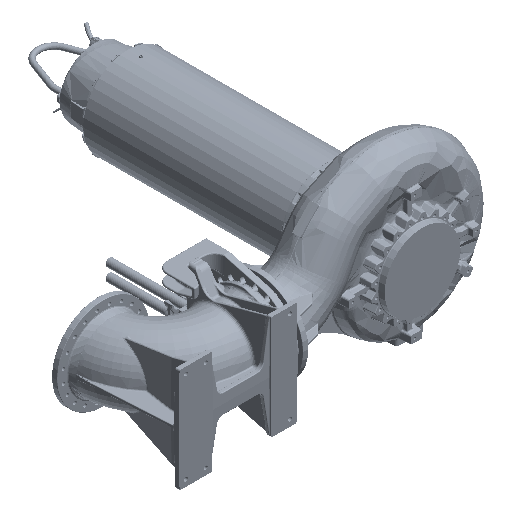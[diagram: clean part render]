
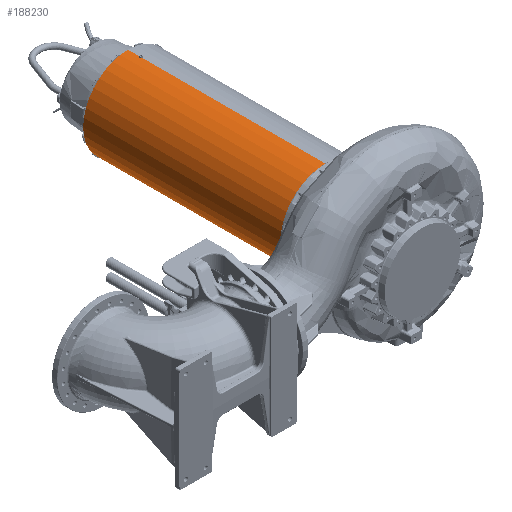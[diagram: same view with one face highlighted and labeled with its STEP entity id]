
A CAD part, isometric view. The second image highlights one B-rep face of the part: STEP entity #188230.
In plain terms, the highlighted cylindrical face has radius 344 mm (diameter 688 mm), a partial arc.
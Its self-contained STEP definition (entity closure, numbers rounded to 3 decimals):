
#555 = LINE ( 'NONE', #67055, #157759 ) ;
#1370 = VECTOR ( 'NONE', #64648, 1000. ) ;
#2952 = VERTEX_POINT ( 'NONE', #310305 ) ;
#3111 = LINE ( 'NONE', #156116, #233762 ) ;
#16021 = VECTOR ( 'NONE', #26738, 1000. ) ;
#16127 = CARTESIAN_POINT ( 'NONE',  ( -9.5, 2400.849, -343.869 ) ) ;
#16749 = LINE ( 'NONE', #16127, #90557 ) ;
#23406 = CARTESIAN_POINT ( 'NONE',  ( 0., 2171.47, 344. ) ) ;
#26738 = DIRECTION ( 'NONE',  ( 0., -1., 0. ) ) ;
#26875 = EDGE_LOOP ( 'NONE', ( #102037, #262668, #109372, #174035, #321919, #354565, #198308, #135340, #234868, #185734, #379098, #289394 ) ) ;
#35320 = DIRECTION ( 'NONE',  ( 0., -1., 0. ) ) ;
#35903 = CARTESIAN_POINT ( 'NONE',  ( -3.167, 2151.359, -344. ) ) ;
#39269 = VECTOR ( 'NONE', #86715, 1000. ) ;
#39457 = EDGE_CURVE ( 'NONE', #347592, #126728, #132714, .T. ) ;
#41908 = CIRCLE ( 'NONE', #209136, 344. ) ;
#42682 = CARTESIAN_POINT ( 'NONE',  ( 0., 2149.53, -344. ) ) ;
#49334 = EDGE_CURVE ( 'NONE', #371485, #338370, #555, .T. ) ;
#49804 = VERTEX_POINT ( 'NONE', #166697 ) ;
#49945 = AXIS2_PLACEMENT_3D ( 'NONE', #152753, #247272, #404923 ) ;
#64648 = DIRECTION ( 'NONE',  ( 0., -1., 0. ) ) ;
#66501 = CARTESIAN_POINT ( 'NONE',  ( -9.5, 2155.015, -343.869 ) ) ;
#67055 = CARTESIAN_POINT ( 'NONE',  ( 0., 765.5, 344. ) ) ;
#69949 = DIRECTION ( 'NONE',  ( 0., -1., 0. ) ) ;
#75799 = EDGE_CURVE ( 'NONE', #2952, #114535, #131478, .T. ) ;
#84308 = EDGE_CURVE ( 'NONE', #320020, #2952, #16749, .T. ) ;
#84737 = CARTESIAN_POINT ( 'NONE',  ( 0., 745.5, -344. ) ) ;
#86349 = CARTESIAN_POINT ( 'NONE',  ( 0., 2171.47, -344. ) ) ;
#86715 = DIRECTION ( 'NONE',  ( 0., -1., 0. ) ) ;
#90161 = CYLINDRICAL_SURFACE ( 'NONE', #49945, 344. ) ;
#90557 = VECTOR ( 'NONE', #172674, 1000. ) ;
#96733 = CARTESIAN_POINT ( 'NONE',  ( 0., 2149.53, -344. ) ) ;
#102037 = ORIENTED_EDGE ( 'NONE', *, *, #49334, .F. ) ;
#105760 = CARTESIAN_POINT ( 'NONE',  ( -9.5, 2155.015, -343.869 ) ) ;
#109372 = ORIENTED_EDGE ( 'NONE', *, *, #340922, .T. ) ;
#109552 = VERTEX_POINT ( 'NONE', #161815 ) ;
#114535 = VERTEX_POINT ( 'NONE', #369006 ) ;
#115593 = CARTESIAN_POINT ( 'NONE',  ( 0., 2149.53, 344. ) ) ;
#119891 = EDGE_CURVE ( 'NONE', #109552, #338370, #147397, .T. ) ;
#121285 = VERTEX_POINT ( 'NONE', #84737 ) ;
#123328 = CIRCLE ( 'NONE', #360873, 344. ) ;
#126728 = VERTEX_POINT ( 'NONE', #380811 ) ;
#131478 =( BOUNDED_CURVE ( )  B_SPLINE_CURVE ( 3, ( #367481, #242649, #274170, #86349 ),
 .UNSPECIFIED., .F., .F. ) 
 B_SPLINE_CURVE_WITH_KNOTS ( ( 4, 4 ),
 ( 4.685, 4.712 ),
 .UNSPECIFIED. ) 
 CURVE ( )  GEOMETRIC_REPRESENTATION_ITEM ( )  RATIONAL_B_SPLINE_CURVE ( ( 1., 1., 1., 1. ) ) 
 REPRESENTATION_ITEM ( '' )  );
#132714 = LINE ( 'NONE', #211506, #39269 ) ;
#134978 =( BOUNDED_CURVE ( )  B_SPLINE_CURVE ( 3, ( #42682, #35903, #293716, #105760 ),
 .UNSPECIFIED., .F., .F. ) 
 B_SPLINE_CURVE_WITH_KNOTS ( ( 4, 4 ),
 ( 4.712, 4.74 ),
 .UNSPECIFIED. ) 
 CURVE ( )  GEOMETRIC_REPRESENTATION_ITEM ( )  RATIONAL_B_SPLINE_CURVE ( ( 1., 1., 1., 1. ) ) 
 REPRESENTATION_ITEM ( '' )  );
#135340 = ORIENTED_EDGE ( 'NONE', *, *, #373456, .F. ) ;
#142550 = EDGE_CURVE ( 'NONE', #262872, #121285, #325275, .T. ) ;
#147397 =( BOUNDED_CURVE ( )  B_SPLINE_CURVE ( 3, ( #179900, #367764, #211435, #23406 ),
 .UNSPECIFIED., .F., .F. ) 
 B_SPLINE_CURVE_WITH_KNOTS ( ( 4, 4 ),
 ( 4.685, 4.712 ),
 .UNSPECIFIED. ) 
 CURVE ( )  GEOMETRIC_REPRESENTATION_ITEM ( )  RATIONAL_B_SPLINE_CURVE ( ( 1., 1., 1., 1. ) ) 
 REPRESENTATION_ITEM ( '' )  );
#152006 = EDGE_CURVE ( 'NONE', #302666, #109552, #3111, .T. ) ;
#152753 = CARTESIAN_POINT ( 'NONE',  ( 0., 765.5, 0. ) ) ;
#156116 = CARTESIAN_POINT ( 'NONE',  ( -9.5, 2400.849, 343.869 ) ) ;
#157283 = EDGE_CURVE ( 'NONE', #371485, #49804, #41908, .T. ) ;
#157759 = VECTOR ( 'NONE', #285117, 1000. ) ;
#161815 = CARTESIAN_POINT ( 'NONE',  ( -9.5, 2165.985, 343.869 ) ) ;
#162816 = CARTESIAN_POINT ( 'NONE',  ( -9.5, 2155.015, 343.869 ) ) ;
#166697 = CARTESIAN_POINT ( 'NONE',  ( 0., 2260.5, -344. ) ) ;
#170368 = CARTESIAN_POINT ( 'NONE',  ( 0., 2171.47, 344. ) ) ;
#172674 = DIRECTION ( 'NONE',  ( 0., 1., 0. ) ) ;
#174035 = ORIENTED_EDGE ( 'NONE', *, *, #75799, .F. ) ;
#178669 = CARTESIAN_POINT ( 'NONE',  ( -9.5, 2155.015, 343.869 ) ) ;
#179900 = CARTESIAN_POINT ( 'NONE',  ( -9.5, 2165.985, 343.869 ) ) ;
#185734 = ORIENTED_EDGE ( 'NONE', *, *, #390683, .T. ) ;
#188230 = ADVANCED_FACE ( 'NONE', ( #203048 ), #90161, .T. ) ;
#188902 = DIRECTION ( 'NONE',  ( 0., 1., 0. ) ) ;
#198308 = ORIENTED_EDGE ( 'NONE', *, *, #142550, .T. ) ;
#203048 = FACE_OUTER_BOUND ( 'NONE', #26875, .T. ) ;
#209136 = AXIS2_PLACEMENT_3D ( 'NONE', #223292, #35320, #254815 ) ;
#211435 = CARTESIAN_POINT ( 'NONE',  ( -3.167, 2169.641, 344. ) ) ;
#211506 = CARTESIAN_POINT ( 'NONE',  ( 0., 765.5, 344. ) ) ;
#211658 =( BOUNDED_CURVE ( )  B_SPLINE_CURVE ( 3, ( #115593, #334958, #366515, #178669 ),
 .UNSPECIFIED., .F., .F. ) 
 B_SPLINE_CURVE_WITH_KNOTS ( ( 4, 4 ),
 ( 4.712, 4.74 ),
 .UNSPECIFIED. ) 
 CURVE ( )  GEOMETRIC_REPRESENTATION_ITEM ( )  RATIONAL_B_SPLINE_CURVE ( ( 1., 1., 1., 1. ) ) 
 REPRESENTATION_ITEM ( '' )  );
#214786 = CARTESIAN_POINT ( 'NONE',  ( 0., 765.5, -344. ) ) ;
#223292 = CARTESIAN_POINT ( 'NONE',  ( 0., 2260.5, 0. ) ) ;
#233762 = VECTOR ( 'NONE', #188902, 1000. ) ;
#234868 = ORIENTED_EDGE ( 'NONE', *, *, #39457, .F. ) ;
#242649 = CARTESIAN_POINT ( 'NONE',  ( -6.334, 2167.813, -343.956 ) ) ;
#247272 = DIRECTION ( 'NONE',  ( 0., -1., 0. ) ) ;
#253933 = CARTESIAN_POINT ( 'NONE',  ( 0., 2260.5, 344. ) ) ;
#254815 = DIRECTION ( 'NONE',  ( 0., 0., -1. ) ) ;
#257807 = CARTESIAN_POINT ( 'NONE',  ( 0., 745.5, 0. ) ) ;
#262668 = ORIENTED_EDGE ( 'NONE', *, *, #157283, .T. ) ;
#262872 = VERTEX_POINT ( 'NONE', #96733 ) ;
#274170 = CARTESIAN_POINT ( 'NONE',  ( -3.167, 2169.641, -344. ) ) ;
#284041 = CARTESIAN_POINT ( 'NONE',  ( 0., 765.5, -344. ) ) ;
#285117 = DIRECTION ( 'NONE',  ( 0., -1., 0. ) ) ;
#289394 = ORIENTED_EDGE ( 'NONE', *, *, #119891, .T. ) ;
#289424 = DIRECTION ( 'NONE',  ( 0., 0., -1. ) ) ;
#293716 = CARTESIAN_POINT ( 'NONE',  ( -6.334, 2153.187, -343.956 ) ) ;
#302666 = VERTEX_POINT ( 'NONE', #162816 ) ;
#310305 = CARTESIAN_POINT ( 'NONE',  ( -9.5, 2165.985, -343.869 ) ) ;
#320020 = VERTEX_POINT ( 'NONE', #66501 ) ;
#321919 = ORIENTED_EDGE ( 'NONE', *, *, #84308, .F. ) ;
#322283 = CARTESIAN_POINT ( 'NONE',  ( 0., 2149.53, 344. ) ) ;
#325275 = LINE ( 'NONE', #284041, #1370 ) ;
#325761 = EDGE_CURVE ( 'NONE', #262872, #320020, #134978, .T. ) ;
#334958 = CARTESIAN_POINT ( 'NONE',  ( -3.167, 2151.359, 344. ) ) ;
#338370 = VERTEX_POINT ( 'NONE', #170368 ) ;
#340922 = EDGE_CURVE ( 'NONE', #49804, #114535, #349842, .T. ) ;
#347592 = VERTEX_POINT ( 'NONE', #322283 ) ;
#349842 = LINE ( 'NONE', #214786, #16021 ) ;
#354565 = ORIENTED_EDGE ( 'NONE', *, *, #325761, .F. ) ;
#360873 = AXIS2_PLACEMENT_3D ( 'NONE', #257807, #69949, #289424 ) ;
#366515 = CARTESIAN_POINT ( 'NONE',  ( -6.334, 2153.187, 343.956 ) ) ;
#367481 = CARTESIAN_POINT ( 'NONE',  ( -9.5, 2165.985, -343.869 ) ) ;
#367764 = CARTESIAN_POINT ( 'NONE',  ( -6.334, 2167.813, 343.956 ) ) ;
#369006 = CARTESIAN_POINT ( 'NONE',  ( 0., 2171.47, -344. ) ) ;
#371485 = VERTEX_POINT ( 'NONE', #253933 ) ;
#373456 = EDGE_CURVE ( 'NONE', #126728, #121285, #123328, .T. ) ;
#379098 = ORIENTED_EDGE ( 'NONE', *, *, #152006, .T. ) ;
#380811 = CARTESIAN_POINT ( 'NONE',  ( 0., 745.5, 344. ) ) ;
#390683 = EDGE_CURVE ( 'NONE', #347592, #302666, #211658, .T. ) ;
#404923 = DIRECTION ( 'NONE',  ( 0., 0., -1. ) ) ;
